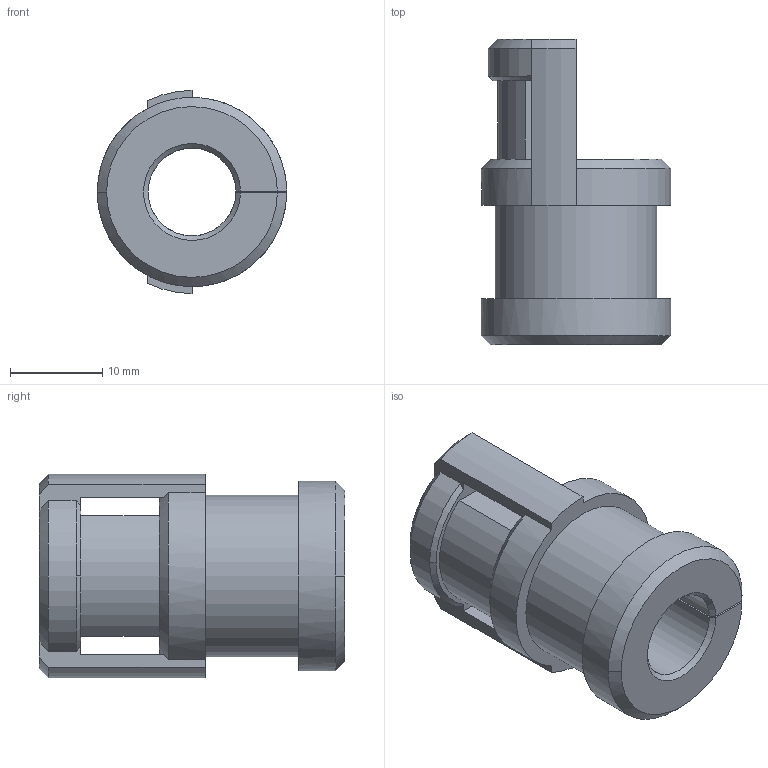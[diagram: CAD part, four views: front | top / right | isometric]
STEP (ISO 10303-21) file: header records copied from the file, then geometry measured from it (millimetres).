
FILE_DESCRIPTION (( 'STEP AP203' ), '1' );
FILE_NAME ('KDT-Z 08.STEP', '2022-10-08T05:18:50', ( '' ), ( '' ), 'SwSTEP 2.0', 'SolidWorks 2016', '' );
FILE_SCHEMA (( 'CONFIG_CONTROL_DESIGN' ));
Length unit declared in the file: millimetre
Products named in the file (1): KDT-Z 08
Bounding box: 20.5 x 33.1 x 22 mm (x, y, z)
Volume: 5486.5 mm3; surface area: 3541.1 mm2
Topology: 1 solids, 1 shells, 40 faces, 126 edges, 84 vertices
Faces by surface type: plane 16, cone 14, cylinder 10
Entity records: 1667 total; most frequent: CARTESIAN_POINT 482, ORIENTED_EDGE 252, DIRECTION 215, EDGE_CURVE 126, VERTEX_POINT 84, AXIS2_PLACEMENT_3D 74, LINE 67, VECTOR 67
